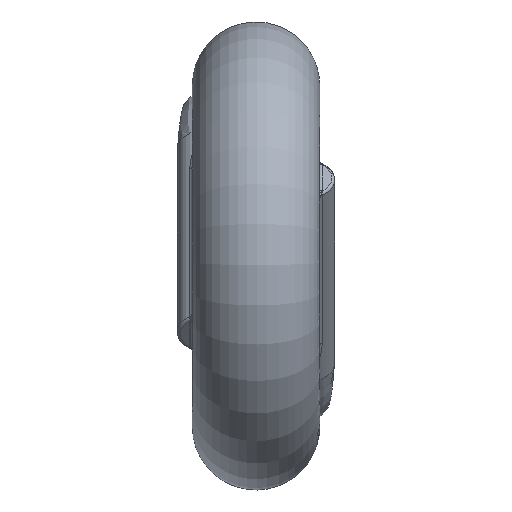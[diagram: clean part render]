
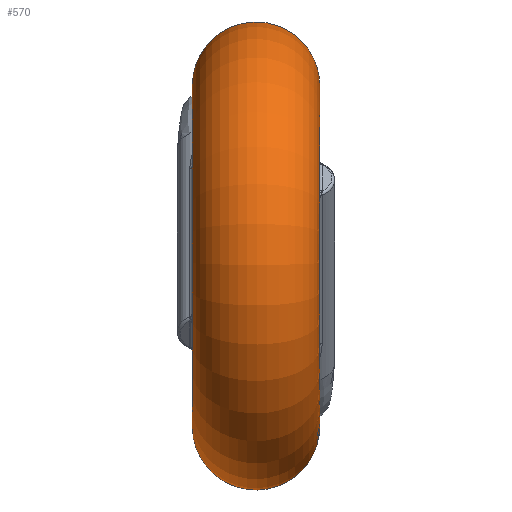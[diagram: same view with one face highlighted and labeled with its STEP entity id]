
A CAD part, left-side view. The second image highlights one B-rep face of the part: STEP entity #570.
In plain terms, the highlighted toroidal (fillet/blend) face has major radius 6.295 mm and minor radius 2.355 mm.
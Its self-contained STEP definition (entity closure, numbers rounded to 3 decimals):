
#20=TOROIDAL_SURFACE('',#632,6.295,2.355);
#81=B_SPLINE_CURVE_WITH_KNOTS('',3,(#1661,#1662,#1663,#1664,#1665,#1666,
#1667,#1668,#1669,#1670,#1671,#1672,#1673,#1674,#1675),.UNSPECIFIED.,.F.,
 .F.,(4,1,1,1,1,1,1,1,1,1,1,1,4),(-0.807,-0.749,
-0.692,-0.576,-0.461,-0.403,
-0.346,-0.288,-0.231,-0.173,
-0.115,-0.086,0.),.UNSPECIFIED.);
#82=B_SPLINE_CURVE_WITH_KNOTS('',3,(#1681,#1682,#1683,#1684,#1685,#1686,
#1687,#1688,#1689,#1690,#1691,#1692,#1693,#1694,#1695),.UNSPECIFIED.,.F.,
 .F.,(4,1,1,1,1,1,1,1,1,1,1,1,4),(-0.807,-0.749,
-0.692,-0.576,-0.461,-0.403,
-0.346,-0.288,-0.231,-0.173,
-0.115,-0.086,0.),.UNSPECIFIED.);
#97=FACE_BOUND('',#171,.T.);
#129=FACE_OUTER_BOUND('',#170,.T.);
#170=EDGE_LOOP('',(#453,#454));
#171=EDGE_LOOP('',(#455,#456));
#215=CIRCLE('',#633,6.295);
#216=CIRCLE('',#634,6.295);
#259=VERTEX_POINT('',#1551);
#260=VERTEX_POINT('',#1659);
#261=VERTEX_POINT('',#1679);
#262=VERTEX_POINT('',#1680);
#330=EDGE_CURVE('',#260,#259,#81,.T.);
#332=EDGE_CURVE('',#261,#262,#82,.T.);
#333=EDGE_CURVE('',#261,#262,#215,.T.);
#334=EDGE_CURVE('',#260,#259,#216,.T.);
#453=ORIENTED_EDGE('',*,*,#332,.T.);
#454=ORIENTED_EDGE('',*,*,#333,.F.);
#455=ORIENTED_EDGE('',*,*,#330,.T.);
#456=ORIENTED_EDGE('',*,*,#334,.F.);
#570=ADVANCED_FACE('',(#129,#97),#20,.T.);
#632=AXIS2_PLACEMENT_3D('',#1678,#759,#760);
#633=AXIS2_PLACEMENT_3D('',#1696,#761,#762);
#634=AXIS2_PLACEMENT_3D('',#1697,#763,#764);
#759=DIRECTION('center_axis',(0.,1.,0.));
#760=DIRECTION('ref_axis',(1.,0.,0.));
#761=DIRECTION('center_axis',(0.,-1.,0.));
#762=DIRECTION('ref_axis',(-1.,0.,0.));
#763=DIRECTION('center_axis',(0.,1.,0.));
#764=DIRECTION('ref_axis',(-1.,0.,0.));
#1551=CARTESIAN_POINT('',(5.344,3.9,3.327));
#1659=CARTESIAN_POINT('',(6.146,3.9,1.363));
#1661=CARTESIAN_POINT('Ctrl Pts',(6.146,3.9,1.363));
#1662=CARTESIAN_POINT('Ctrl Pts',(6.269,3.9,1.496));
#1663=CARTESIAN_POINT('Ctrl Pts',(6.531,3.871,1.746));
#1664=CARTESIAN_POINT('Ctrl Pts',(7.075,3.674,2.17));
#1665=CARTESIAN_POINT('Ctrl Pts',(7.674,3.16,2.63));
#1666=CARTESIAN_POINT('Ctrl Pts',(7.799,2.497,3.316));
#1667=CARTESIAN_POINT('Ctrl Pts',(7.552,2.252,4.003));
#1668=CARTESIAN_POINT('Ctrl Pts',(7.251,2.304,4.498));
#1669=CARTESIAN_POINT('Ctrl Pts',(6.888,2.625,4.819));
#1670=CARTESIAN_POINT('Ctrl Pts',(6.549,3.069,4.798));
#1671=CARTESIAN_POINT('Ctrl Pts',(6.261,3.437,4.532));
#1672=CARTESIAN_POINT('Ctrl Pts',(6.033,3.658,4.216));
#1673=CARTESIAN_POINT('Ctrl Pts',(5.746,3.844,3.804));
#1674=CARTESIAN_POINT('Ctrl Pts',(5.529,3.9,3.519));
#1675=CARTESIAN_POINT('Ctrl Pts',(5.344,3.9,3.327));
#1678=CARTESIAN_POINT('Origin',(0.,1.545,0.));
#1679=CARTESIAN_POINT('',(6.146,-0.81,-1.363));
#1680=CARTESIAN_POINT('',(5.344,-0.81,-3.327));
#1681=CARTESIAN_POINT('Ctrl Pts',(6.146,-0.81,-1.363));
#1682=CARTESIAN_POINT('Ctrl Pts',(6.269,-0.81,-1.496));
#1683=CARTESIAN_POINT('Ctrl Pts',(6.531,-0.781,-1.746));
#1684=CARTESIAN_POINT('Ctrl Pts',(7.075,-0.584,-2.17));
#1685=CARTESIAN_POINT('Ctrl Pts',(7.676,-0.071,-2.629));
#1686=CARTESIAN_POINT('Ctrl Pts',(7.798,0.594,-3.317));
#1687=CARTESIAN_POINT('Ctrl Pts',(7.552,0.838,-4.003));
#1688=CARTESIAN_POINT('Ctrl Pts',(7.25,0.786,-4.498));
#1689=CARTESIAN_POINT('Ctrl Pts',(6.888,0.465,-4.819));
#1690=CARTESIAN_POINT('Ctrl Pts',(6.549,0.021,-4.799));
#1691=CARTESIAN_POINT('Ctrl Pts',(6.261,-0.347,-4.532));
#1692=CARTESIAN_POINT('Ctrl Pts',(6.033,-0.568,-4.216));
#1693=CARTESIAN_POINT('Ctrl Pts',(5.746,-0.754,-3.804));
#1694=CARTESIAN_POINT('Ctrl Pts',(5.529,-0.81,-3.519));
#1695=CARTESIAN_POINT('Ctrl Pts',(5.344,-0.81,-3.327));
#1696=CARTESIAN_POINT('Origin',(0.,-0.81,0.));
#1697=CARTESIAN_POINT('Origin',(0.,3.9,0.));
